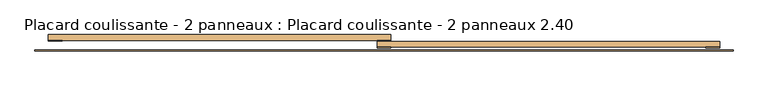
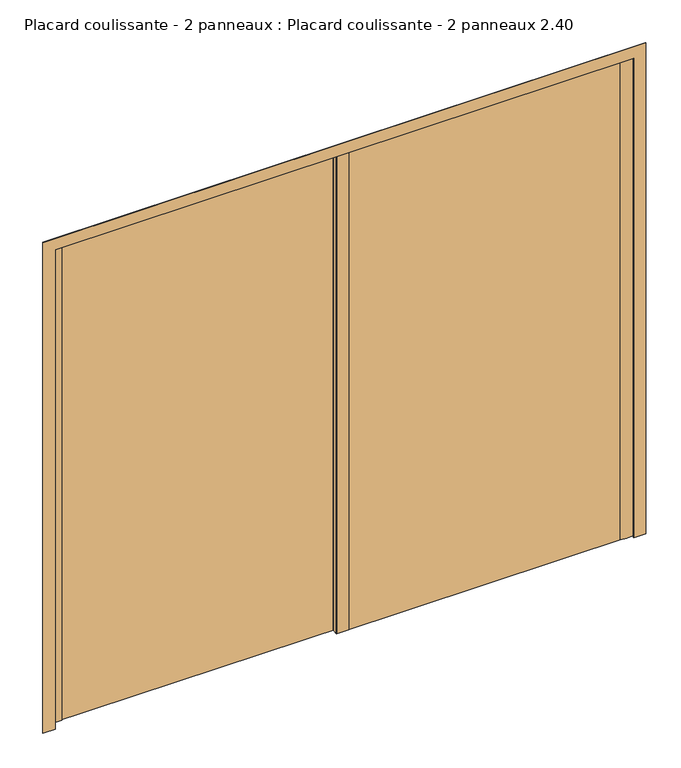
"""IFC4 building model written with IfcOpenShell, lengths in millimetres: door geometry, Placard coulissante - 2 panneaux : Placard coulissante - 2 panneaux 2.40."""

import ifcopenshell
import ifcopenshell.guid

model = None  # the IFC model being written
_history = None  # IfcOwnerHistory: only IFC2X3 demands one
_inside = {}  # id of a spatial element -> (the spatial element, [elements in it])
_under = {}  # id of a project, library or spatial element -> (it, [spatial elements below it])
_declared = {}  # id of a project -> (the project, [libraries it declares])
_typed = {}  # id of a type object -> (the type object, [elements of that type])
_made_of = {}  # id of a material, layer set ... -> (it, [elements and type objects made of it])


def new_model(schema):
    """Start an empty IFC model of exactly this schema.

    Asked for "IFC4X3", IfcOpenShell would pick the latest addendum, in which some entities
    have other attributes; the version numbers below select the first issue.
    IFC2X3 requires an IfcOwnerHistory on every rooted entity: one is made here for all.
    """
    global model, _history
    if schema == "IFC4X3":
        model = ifcopenshell.file(schema_version=(4, 3, 0, 0))
    else:
        model = ifcopenshell.file(schema=schema)
    _inside.clear()
    _under.clear()
    _declared.clear()
    _typed.clear()
    _made_of.clear()
    _history = None
    if model.schema == "IFC2X3":
        org = make("IfcOrganization", Name="unknown")
        user = make(
            "IfcPersonAndOrganization",
            ThePerson=make("IfcPerson", FamilyName="unknown"),
            TheOrganization=org,
        )
        app = make(
            "IfcApplication",
            ApplicationDeveloper=org,
            Version="unknown",
            ApplicationFullName="unknown",
            ApplicationIdentifier="unknown",
        )
        _history = make(
            "IfcOwnerHistory",
            OwningUser=user,
            OwningApplication=app,
            ChangeAction="ADDED",
            CreationDate=0,
        )
    return model


def make(cls, **values):
    """One entity of the class cls with the attributes given. An attribute that is None is left unset."""
    return model.create_entity(
        cls, **{name: value for name, value in values.items() if value is not None}
    )


def rooted(cls, **values):
    """An entity with a GlobalId (a new one), such as an element, a storey or a relation."""
    return make(cls, GlobalId=ifcopenshell.guid.new(), OwnerHistory=_history, **values)


def si_unit(unit_type, name, prefix=None):
    """IfcSIUnit, for example si_unit("LENGTHUNIT", "METRE", prefix="MILLI")."""
    return make("IfcSIUnit", UnitType=unit_type, Prefix=prefix, Name=name)


def assignment(units):
    """IfcUnitAssignment: the units of a project."""
    return None if units is None else make("IfcUnitAssignment", Units=units)


def point(xyz):
    """IfcCartesianPoint."""
    return None if xyz is None else make("IfcCartesianPoint", Coordinates=xyz)


def direction(xyz):
    """IfcDirection."""
    return None if xyz is None else make("IfcDirection", DirectionRatios=xyz)


def frame(location, z_axis=None, x_axis=None):
    """IfcAxis2Placement3D, a coordinate frame: its origin and axes. An axis left out is left unset."""
    return make(
        "IfcAxis2Placement3D",
        Location=point(location),
        Axis=direction(z_axis),
        RefDirection=direction(x_axis),
    )


def frame_2d(location, x_axis=None):
    """IfcAxis2Placement2D, a coordinate frame in the plane: its origin and x axis."""
    return make(
        "IfcAxis2Placement2D", Location=point(location), RefDirection=direction(x_axis)
    )


def origin():
    """The frame at (0, 0, 0) with its axes left unset."""
    return frame((0.0, 0.0, 0.0))


def origin_with_axes():
    """The frame at (0, 0, 0) with the z axis (0, 0, 1) and the x axis (1, 0, 0) written out."""
    return frame((0.0, 0.0, 0.0), z_axis=(0.0, 0.0, 1.0), x_axis=(1.0, 0.0, 0.0))


def place(relative_to, where):
    """IfcLocalPlacement: puts the frame where relative to a parent placement (None: the world)."""
    return make(
        "IfcLocalPlacement", PlacementRelTo=relative_to, RelativePlacement=where
    )


def context(
    kind, dimensions, precision=None, world=None, true_north=None, identifier=None
):
    """IfcGeometricRepresentationContext, for example the 3D "Model" context."""
    return make(
        "IfcGeometricRepresentationContext",
        ContextIdentifier=identifier,
        ContextType=kind,
        CoordinateSpaceDimension=dimensions,
        Precision=precision,
        WorldCoordinateSystem=world,
        TrueNorth=true_north,
    )


def project(units=None, contexts=None):
    """IfcProject with its units and contexts."""
    return rooted(
        "IfcProject",
        Name="project",
        RepresentationContexts=contexts,
        UnitsInContext=assignment(units),
    )


def spatial(cls, under=None, at=None, **own):
    """A site, building, storey or space (cls), placed at a placement, below another one or the project."""
    s = rooted(cls, ObjectPlacement=at, **own)
    if under is not None:
        _under.setdefault(under.id(), (under, []))[1].append(s)
    return s


def polyline(points):
    """IfcPolyline through the points."""
    return make("IfcPolyline", Points=[point(p) for p in points])


def circle_curve(where, radius):
    """IfcCircle in the frame where."""
    return make("IfcCircle", Position=where, Radius=radius)


def trimmed(basis, trim1, trim2, sense, master):
    """IfcTrimmedCurve: the piece of a basis curve between two trims."""
    return make(
        "IfcTrimmedCurve",
        BasisCurve=basis,
        Trim1=trim1,
        Trim2=trim2,
        SenseAgreement=sense,
        MasterRepresentation=master,
    )


def segment(curve, same_sense, transition):
    """IfcCompositeCurveSegment."""
    return make(
        "IfcCompositeCurveSegment",
        Transition=transition,
        SameSense=same_sense,
        ParentCurve=curve,
    )


def composite_curve(segments, self_intersect=None):
    """IfcCompositeCurve: segments joined end to end."""
    return make("IfcCompositeCurve", Segments=segments, SelfIntersect=self_intersect)


def outline(outer, holes=None, kind="AREA"):
    """IfcArbitraryClosedProfileDef: a profile drawn as a closed curve; with holes, ...WithVoids."""
    if holes is None:
        return make("IfcArbitraryClosedProfileDef", ProfileType=kind, OuterCurve=outer)
    return make(
        "IfcArbitraryProfileDefWithVoids",
        ProfileType=kind,
        OuterCurve=outer,
        InnerCurves=holes,
    )


def extrude(swept, where, along, depth):
    """IfcExtrudedAreaSolid: the profile swept, set in the frame where, extruded along a direction by depth."""
    return make(
        "IfcExtrudedAreaSolid",
        SweptArea=swept,
        Position=where,
        ExtrudedDirection=direction(along),
        Depth=depth,
    )


def shape(context_of_items, identifier, shape_type, items):
    """IfcShapeRepresentation: the items that make up one representation, for example the "Body"."""
    return make(
        "IfcShapeRepresentation",
        ContextOfItems=context_of_items,
        RepresentationIdentifier=identifier,
        RepresentationType=shape_type,
        Items=items,
    )


def source(mapping_origin, context_of_items, identifier, shape_type, items):
    """IfcRepresentationMap: a shape defined once, which mapped items show again and again."""
    return make(
        "IfcRepresentationMap",
        MappingOrigin=mapping_origin,
        MappedRepresentation=shape(context_of_items, identifier, shape_type, items),
    )


def transform(
    local_origin,
    x_axis=None,
    y_axis=None,
    z_axis=None,
    scale=None,
    scale2=None,
    scale3=None,
    uniform=True,
):
    """IfcCartesianTransformationOperator3D, or its non-uniform kind. x_axis, y_axis, z_axis: its Axis1, 2, 3."""
    if uniform:
        return make(
            "IfcCartesianTransformationOperator3D",
            Axis1=direction(x_axis),
            Axis2=direction(y_axis),
            LocalOrigin=point(local_origin),
            Scale=scale,
            Axis3=direction(z_axis),
        )
    return make(
        "IfcCartesianTransformationOperator3DnonUniform",
        Axis1=direction(x_axis),
        Axis2=direction(y_axis),
        LocalOrigin=point(local_origin),
        Scale=scale,
        Axis3=direction(z_axis),
        Scale2=scale2,
        Scale3=scale3,
    )


def mapped(mapping_source, mapping_target):
    """IfcMappedItem: shows the shape of a source again, moved by a transform."""
    return make(
        "IfcMappedItem", MappingSource=mapping_source, MappingTarget=mapping_target
    )


def made_of(thing, what):
    """Note that an element or type object is made of a material, layer set ...; save() writes the relation."""
    if what is not None:
        _made_of.setdefault(what.id(), (what, []))[1].append(thing)
    return thing


def element(
    cls,
    number,
    at=None,
    inside=None,
    cuts=None,
    type_object=None,
    material=None,
    context=None,
    identifier="Body",
    shape_type=None,
    held_by="IfcProductDefinitionShape",
    body=None,
    shapes=None,
    **own,
):
    """One element of the class cls, such as IfcWall. Its Tag is "e" and its number.

    at: its placement. inside: the storey or other place that contains it. cuts: it is an
    opening in that element (IfcRelVoidsElement). A single representation is given by context,
    identifier, shape_type and body (its items); several are given by shapes. held_by: the class
    of the entity that holds the representations. save() writes the other relations.
    """
    e = rooted(cls, Tag="e%d" % number, ObjectPlacement=at, **own)
    if body is not None:
        shapes = [shape(context, identifier, shape_type, body)]
    if shapes is not None:
        e.Representation = make(held_by, Representations=shapes)
    if inside is not None:
        _inside.setdefault(inside.id(), (inside, []))[1].append(e)
    if cuts is not None:
        rooted(
            "IfcRelVoidsElement", RelatingBuildingElement=cuts, RelatedOpeningElement=e
        )
    if type_object is not None:
        _typed.setdefault(type_object.id(), (type_object, []))[1].append(e)
    return made_of(e, material)


def aggregate(whole, parts):
    """IfcRelAggregates: a whole, such as a stair, and the parts it consists of."""
    return rooted("IfcRelAggregates", RelatingObject=whole, RelatedObjects=parts)


def save(model, path):
    """Write the relations noted so far, then the file.

    IfcRelAggregates (storeys below a building ...), IfcRelContainedInSpatialStructure (elements
    in a storey), IfcRelDefinesByType, IfcRelAssociatesMaterial and IfcRelDeclares: one each for
    every whole, place, type object, material and project.
    """
    for whole, parts in _under.values():
        aggregate(whole, parts)
    for where, things in _inside.values():
        rooted(
            "IfcRelContainedInSpatialStructure",
            RelatedElements=things,
            RelatingStructure=where,
        )
    for kind, things in _typed.values():
        rooted("IfcRelDefinesByType", RelatedObjects=things, RelatingType=kind)
    for what, things in _made_of.values():
        rooted("IfcRelAssociatesMaterial", RelatedObjects=things, RelatingMaterial=what)
    for by, libraries in _declared.values():
        rooted("IfcRelDeclares", RelatingContext=by, RelatedDefinitions=libraries)
    model.write(path)


def placard_coulissante_2_panneaux_placard_coulissante_2_eb3e7d37(model_context):
    return source(origin(), model_context, "Body", "SweptSolid", [
        extrude(outline(composite_curve([segment(polyline([(1200.0, -25.0), (1200.0, -27.0)]), True, "CONTINUOUS"), segment(trimmed(circle_curve(frame_2d((1175.0, 186.8603852)), 215.3166607), [point((1200.0, -27.0))], [point((1150.0, -27.0))], False, "CARTESIAN"), True, "CONTINUOUS"), segment(polyline([(1150.0, -27.0), (1150.0, -25.0), (1200.0, -25.0)]), True, "CONTINUOUS")], self_intersect=False)), origin_with_axes(), (0.0, 0.0, 1.0), 2100.0),
        extrude(outline(composite_curve([segment(polyline([(25.0, -25.0), (25.0, -27.0)]), True, "CONTINUOUS"), segment(trimmed(circle_curve(frame_2d((0.0, 186.8603852)), 215.3166607), [point((25.0, -27.0))], [point((-25.0, -27.0))], False, "CARTESIAN"), True, "CONTINUOUS"), segment(polyline([(-25.0, -27.0), (-25.0, -25.0), (25.0, -25.0)]), True, "CONTINUOUS")], self_intersect=False)), origin_with_axes(), (0.0, 0.0, 1.0), 2100.0),
        extrude(outline(composite_curve([segment(polyline([(25.0, 0.0), (25.0, -2.0)]), True, "CONTINUOUS"), segment(trimmed(circle_curve(frame_2d((0.0, 211.8603852)), 215.3166607), [point((25.0, -2.0))], [point((-25.0, -2.0))], False, "CARTESIAN"), True, "CONTINUOUS"), segment(polyline([(-25.0, -2.0), (-25.0, 0.0), (25.0, 0.0)]), True, "CONTINUOUS")], self_intersect=False)), origin_with_axes(), (0.0, 0.0, 1.0), 2100.0),
        extrude(outline(composite_curve([segment(polyline([(-1150.0, 0.0), (-1150.0, -2.0)]), True, "CONTINUOUS"), segment(trimmed(circle_curve(frame_2d((-1175.0, 211.8603852)), 215.3166607), [point((-1150.0, -2.0))], [point((-1200.0, -2.0))], False, "CARTESIAN"), True, "CONTINUOUS"), segment(polyline([(-1200.0, -2.0), (-1200.0, 0.0), (-1150.0, 0.0)]), True, "CONTINUOUS")], self_intersect=False)), origin_with_axes(), (0.0, 0.0, 1.0), 2100.0),
        extrude(outline(polyline([(0.0, -1248.0), (0.0, -1198.0), (2098.0, -1198.0), (2098.0, 1198.0), (0.0, 1198.0), (0.0, 1248.0), (2148.0, 1248.0), (2148.0, -1248.0), (0.0, -1248.0)])), frame((0.0, -38.0, 0.0), z_axis=(0.0, 1.0, 0.0), x_axis=(0.0, 0.0, 1.0)), (0.0, 0.0, 1.0), 3.0),
        extrude(outline(polyline([(1200.0, -25.0), (-25.0, -25.0), (-25.0, -5.0), (1200.0, -5.0), (1200.0, -25.0)])), origin_with_axes(), (0.0, 0.0, 1.0), 2100.0),
        extrude(outline(polyline([(25.0, 0.0), (-1200.0, 0.0), (-1200.0, 20.0), (25.0, 20.0), (25.0, 0.0)])), origin_with_axes(), (0.0, 0.0, 1.0), 2100.0),
    ])


if __name__ == "__main__":
    model = new_model("IFC4")
    model_context = context("Model", 3, world=origin())
    ifc_project = project(units=[si_unit("LENGTHUNIT", "METRE", prefix="MILLI")], contexts=[model_context])
    site = spatial("IfcSite", under=ifc_project)
    building = spatial("IfcBuilding", under=site)
    placement = place(None, origin())
    placard_coulissante_2_panneaux_placard_coulissante_2_shape = placard_coulissante_2_panneaux_placard_coulissante_2_eb3e7d37(model_context)
    element("IfcDoor", 1, ObjectType="Placard coulissante - 2 panneaux : Placard coulissante - 2 panneaux 2.40", at=placement, inside=building, context=model_context, shape_type="MappedRepresentation", body=[
        mapped(placard_coulissante_2_panneaux_placard_coulissante_2_shape, transform((0.0, 0.0, 0.0), x_axis=(1.0, 0.0, 0.0), y_axis=(0.0, 1.0, 0.0), z_axis=(0.0, 0.0, 1.0))),
    ])
    save(model, "model.ifc")
